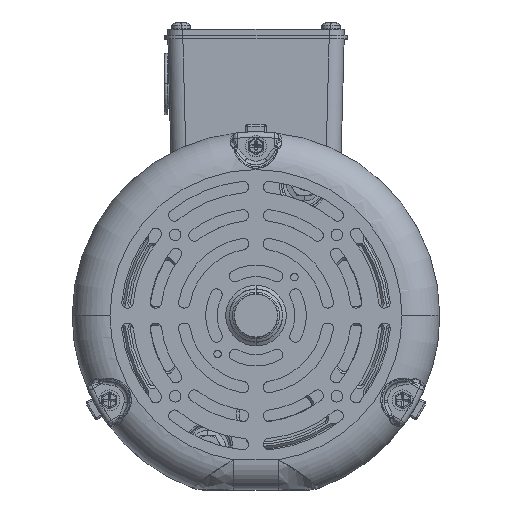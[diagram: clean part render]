
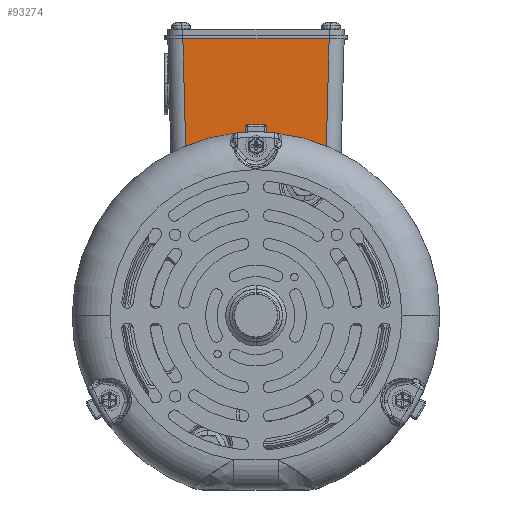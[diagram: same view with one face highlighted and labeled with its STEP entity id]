
A CAD part, top view. The second image highlights one B-rep face of the part: STEP entity #93274.
In plain terms, the highlighted planar face has unit normal (0, -0.026, 1).
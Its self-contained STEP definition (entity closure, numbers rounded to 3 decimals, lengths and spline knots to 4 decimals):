
#1951 = EDGE_CURVE ( 'NONE', #104371, #101400, #44846, .T. ) ;
#2804 = CARTESIAN_POINT ( 'NONE',  ( -1.1677, 2.6232, 9.6809 ) ) ;
#4134 = LINE ( 'NONE', #15493, #85881 ) ;
#4521 = DIRECTION ( 'NONE',  ( 0.026, 0.999, 0.026 ) ) ;
#13782 = CARTESIAN_POINT ( 'NONE',  ( -1.47, 4.6225, 9.7333 ) ) ;
#14483 = EDGE_CURVE ( 'NONE', #105904, #71021, #85077, .T. ) ;
#15493 = CARTESIAN_POINT ( 'NONE',  ( 1.2182, 4.5522, 9.7315 ) ) ;
#15630 = CARTESIAN_POINT ( 'NONE',  ( -0.799, 2.7882, 9.6853 ) ) ;
#16547 = EDGE_LOOP ( 'NONE', ( #74093, #109121, #41384, #76414, #97509 ) ) ;
#22719 = CARTESIAN_POINT ( 'NONE',  ( -1.1677, 2.6232, 9.6809 ) ) ;
#25637 = DIRECTION ( 'NONE',  ( 0., -0.026, 1. ) ) ;
#38720 = CARTESIAN_POINT ( 'NONE',  ( 0.799, 2.7882, 9.6853 ) ) ;
#39648 = CARTESIAN_POINT ( 'NONE',  ( 0., 2.8725, 9.6875 ) ) ;
#41384 = ORIENTED_EDGE ( 'NONE', *, *, #59908, .T. ) ;
#44846 = LINE ( 'NONE', #121537, #128265 ) ;
#46578 = LINE ( 'NONE', #50823, #111290 ) ;
#50561 = CARTESIAN_POINT ( 'NONE',  ( 1.1677, 2.6232, 9.6809 ) ) ;
#50823 = CARTESIAN_POINT ( 'NONE',  ( -1.47, 4.6225, 9.7333 ) ) ;
#59161 = AXIS2_PLACEMENT_3D ( 'NONE', #13782, #25637, #79375 ) ;
#59908 = EDGE_CURVE ( 'NONE', #71021, #129771, #4134, .T. ) ;
#61441 = CARTESIAN_POINT ( 'NONE',  ( -1.2201, 4.6225, 9.7333 ) ) ;
#69302 = CARTESIAN_POINT ( 'NONE',  ( -0.4039, 2.8725, 9.6875 ) ) ;
#69787 = PLANE ( 'NONE',  #59161 ) ;
#71021 = VERTEX_POINT ( 'NONE', #50561 ) ;
#74093 = ORIENTED_EDGE ( 'NONE', *, *, #89752, .T. ) ;
#76414 = ORIENTED_EDGE ( 'NONE', *, *, #80777, .F. ) ;
#79164 = DIRECTION ( 'NONE',  ( 0.026, -0.999, -0.026 ) ) ;
#79375 = DIRECTION ( 'NONE',  ( 0., -1., -0.026 ) ) ;
#80777 = EDGE_CURVE ( 'NONE', #104371, #129771, #46578, .T. ) ;
#84376 = CARTESIAN_POINT ( 'NONE',  ( 0., 2.8725, 9.6875 ) ) ;
#85077 =( BOUNDED_CURVE ( )  B_SPLINE_CURVE ( 3, ( #39648, #103906, #38720, #115338 ),
 .UNSPECIFIED., .F., .T. ) 
 B_SPLINE_CURVE_WITH_KNOTS ( ( 4, 4 ),
 ( 3.1416, 3.5622 ),
 .UNSPECIFIED. ) 
 CURVE ( )  GEOMETRIC_REPRESENTATION_ITEM ( )  RATIONAL_B_SPLINE_CURVE ( ( 1., 0.985, 0.985, 1. ) ) 
 REPRESENTATION_ITEM ( '' )  );
#85881 = VECTOR ( 'NONE', #4521, 39.3701 ) ;
#89752 = EDGE_CURVE ( 'NONE', #101400, #105904, #92319, .T. ) ;
#91731 = CARTESIAN_POINT ( 'NONE',  ( 0., 2.8725, 9.6875 ) ) ;
#92319 =( BOUNDED_CURVE ( )  B_SPLINE_CURVE ( 3, ( #2804, #15630, #69302, #91731 ),
 .UNSPECIFIED., .F., .F. ) 
 B_SPLINE_CURVE_WITH_KNOTS ( ( 4, 4 ),
 ( 2.721, 3.1416 ),
 .UNSPECIFIED. ) 
 CURVE ( )  GEOMETRIC_REPRESENTATION_ITEM ( )  RATIONAL_B_SPLINE_CURVE ( ( 1., 0.985, 0.985, 1. ) ) 
 REPRESENTATION_ITEM ( '' )  );
#93274 = ADVANCED_FACE ( 'NONE', ( #96581 ), #69787, .T. ) ;
#96581 = FACE_OUTER_BOUND ( 'NONE', #16547, .T. ) ;
#97509 = ORIENTED_EDGE ( 'NONE', *, *, #1951, .T. ) ;
#100611 = CARTESIAN_POINT ( 'NONE',  ( 1.2201, 4.6225, 9.7333 ) ) ;
#101400 = VERTEX_POINT ( 'NONE', #22719 ) ;
#103906 = CARTESIAN_POINT ( 'NONE',  ( 0.4039, 2.8725, 9.6875 ) ) ;
#104371 = VERTEX_POINT ( 'NONE', #61441 ) ;
#105904 = VERTEX_POINT ( 'NONE', #84376 ) ;
#107455 = DIRECTION ( 'NONE',  ( 1., 0., 0. ) ) ;
#109121 = ORIENTED_EDGE ( 'NONE', *, *, #14483, .T. ) ;
#111290 = VECTOR ( 'NONE', #107455, 39.3701 ) ;
#115338 = CARTESIAN_POINT ( 'NONE',  ( 1.1677, 2.6232, 9.6809 ) ) ;
#121537 = CARTESIAN_POINT ( 'NONE',  ( -1.2203, 4.629, 9.7335 ) ) ;
#128265 = VECTOR ( 'NONE', #79164, 39.3701 ) ;
#129771 = VERTEX_POINT ( 'NONE', #100611 ) ;
